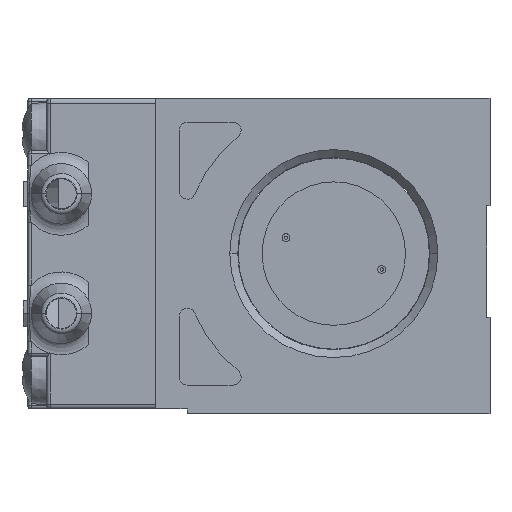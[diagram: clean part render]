
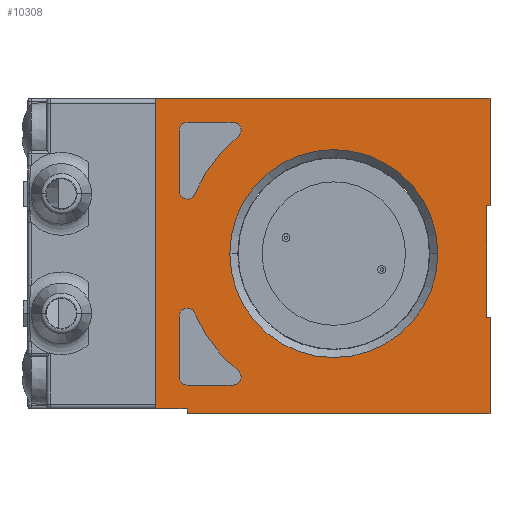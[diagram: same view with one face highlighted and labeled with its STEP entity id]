
A CAD part, left-side view. The second image highlights one B-rep face of the part: STEP entity #10308.
In plain terms, the highlighted planar face has unit normal (-1, 0, 0).
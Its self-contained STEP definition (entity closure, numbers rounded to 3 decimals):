
#3442=DIRECTION('',(0.,0.,1.));
#3443=VECTOR('',#3442,19.5);
#3444=CARTESIAN_POINT('',(-15.75,10.5,-9.75));
#3445=LINE('',#3444,#3443);
#3446=DIRECTION('',(0.,-1.,0.));
#3447=VECTOR('',#3446,21.);
#3448=CARTESIAN_POINT('',(-15.75,10.5,9.75));
#3449=LINE('',#3448,#3447);
#3450=DIRECTION('',(0.,0.,-1.));
#3451=VECTOR('',#3450,6.75);
#3452=CARTESIAN_POINT('',(-15.75,-10.5,9.75));
#3453=LINE('',#3452,#3451);
#3454=DIRECTION('',(0.,1.,0.));
#3455=VECTOR('',#3454,0.2);
#3456=CARTESIAN_POINT('',(-15.75,-10.5,3.));
#3457=LINE('',#3456,#3455);
#3458=DIRECTION('',(0.,0.,-1.));
#3459=VECTOR('',#3458,7.);
#3460=CARTESIAN_POINT('',(-15.75,-10.3,3.));
#3461=LINE('',#3460,#3459);
#3462=DIRECTION('',(0.,-1.,0.));
#3463=VECTOR('',#3462,0.2);
#3464=CARTESIAN_POINT('',(-15.75,-10.3,-4.));
#3465=LINE('',#3464,#3463);
#3466=DIRECTION('',(0.,0.,-1.));
#3467=VECTOR('',#3466,6.05);
#3468=CARTESIAN_POINT('',(-15.75,-10.5,-4.));
#3469=LINE('',#3468,#3467);
#3470=DIRECTION('',(0.,1.,0.));
#3471=VECTOR('',#3470,19.);
#3472=CARTESIAN_POINT('',(-15.75,-10.5,-10.05));
#3473=LINE('',#3472,#3471);
#3474=DIRECTION('',(0.,0.,1.));
#3475=VECTOR('',#3474,0.3);
#3476=CARTESIAN_POINT('',(-15.75,8.5,-10.05));
#3477=LINE('',#3476,#3475);
#3478=DIRECTION('',(0.,1.,0.));
#3479=VECTOR('',#3478,2.);
#3480=CARTESIAN_POINT('',(-15.75,8.5,-9.75));
#3481=LINE('',#3480,#3479);
#3482=CARTESIAN_POINT('',(-15.75,5.62,-7.75));
#3483=DIRECTION('',(-1.,0.,0.));
#3484=DIRECTION('',(0.,0.,-1.));
#3485=AXIS2_PLACEMENT_3D('',#3482,#3483,#3484);
#3487=CARTESIAN_POINT('',(-15.75,-0.7,0.));
#3488=DIRECTION('',(1.,0.,0.));
#3489=DIRECTION('',(0.,0.632,-0.775));
#3490=AXIS2_PLACEMENT_3D('',#3487,#3488,#3489);
#3492=CARTESIAN_POINT('',(-15.75,8.5,-3.919));
#3493=DIRECTION('',(-1.,0.,0.));
#3494=DIRECTION('',(0.,-0.92,0.392));
#3495=AXIS2_PLACEMENT_3D('',#3492,#3493,#3494);
#3497=CARTESIAN_POINT('',(-15.75,8.5,-3.919));
#3498=DIRECTION('',(-1.,0.,0.));
#3499=DIRECTION('',(0.,0.,1.));
#3500=AXIS2_PLACEMENT_3D('',#3497,#3498,#3499);
#3502=CARTESIAN_POINT('',(-15.75,8.5,-7.75));
#3503=DIRECTION('',(-1.,0.,0.));
#3504=DIRECTION('',(0.,1.,0.));
#3505=AXIS2_PLACEMENT_3D('',#3502,#3503,#3504);
#3507=CARTESIAN_POINT('',(-15.75,-0.7,0.));
#3508=DIRECTION('',(1.,0.,0.));
#3509=DIRECTION('',(0.,0.92,0.392));
#3510=AXIS2_PLACEMENT_3D('',#3507,#3508,#3509);
#3512=CARTESIAN_POINT('',(-15.75,5.62,7.75));
#3513=DIRECTION('',(-1.,0.,0.));
#3514=DIRECTION('',(0.,-0.632,-0.775));
#3515=AXIS2_PLACEMENT_3D('',#3512,#3513,#3514);
#3517=CARTESIAN_POINT('',(-15.75,8.5,7.75));
#3518=DIRECTION('',(-1.,0.,0.));
#3519=DIRECTION('',(0.,0.,1.));
#3520=AXIS2_PLACEMENT_3D('',#3517,#3518,#3519);
#3522=CARTESIAN_POINT('',(-15.75,8.5,3.919));
#3523=DIRECTION('',(-1.,0.,0.));
#3524=DIRECTION('',(0.,1.,0.));
#3525=AXIS2_PLACEMENT_3D('',#3522,#3523,#3524);
#3527=CARTESIAN_POINT('',(-15.75,8.5,3.919));
#3528=DIRECTION('',(-1.,0.,0.));
#3529=DIRECTION('',(0.,0.,-1.));
#3530=AXIS2_PLACEMENT_3D('',#3527,#3528,#3529);
#3532=CARTESIAN_POINT('',(-15.75,-0.7,0.));
#3533=DIRECTION('',(-1.,0.,0.));
#3534=DIRECTION('',(0.,-1.,0.));
#3535=AXIS2_PLACEMENT_3D('',#3532,#3533,#3534);
#3537=CARTESIAN_POINT('',(-15.75,-0.7,0.));
#3538=DIRECTION('',(-1.,0.,0.));
#3539=DIRECTION('',(0.,1.,0.));
#3540=AXIS2_PLACEMENT_3D('',#3537,#3538,#3539);
#4188=DIRECTION('',(0.,1.,0.));
#4189=VECTOR('',#4188,2.88);
#4190=CARTESIAN_POINT('',(-15.75,5.62,-8.25));
#4191=LINE('',#4190,#4189);
#4200=DIRECTION('',(0.,0.,1.));
#4201=VECTOR('',#4200,3.831);
#4202=CARTESIAN_POINT('',(-15.75,9.,-7.75));
#4203=LINE('',#4202,#4201);
#4265=DIRECTION('',(0.,0.,1.));
#4266=VECTOR('',#4265,3.831);
#4267=CARTESIAN_POINT('',(-15.75,9.,3.919));
#4268=LINE('',#4267,#4266);
#4277=DIRECTION('',(0.,-1.,0.));
#4278=VECTOR('',#4277,2.88);
#4279=CARTESIAN_POINT('',(-15.75,8.5,8.25));
#4280=LINE('',#4279,#4278);
#4723=CARTESIAN_POINT('',(-15.75,-10.5,9.75));
#4724=VERTEX_POINT('',#4723);
#4725=CARTESIAN_POINT('',(-15.75,10.5,9.75));
#4726=VERTEX_POINT('',#4725);
#4767=CARTESIAN_POINT('',(-15.75,10.5,-9.75));
#4768=VERTEX_POINT('',#4767);
#4769=CARTESIAN_POINT('',(-15.75,8.5,-9.75));
#4770=VERTEX_POINT('',#4769);
#5147=CARTESIAN_POINT('',(-15.75,8.5,-10.05));
#5148=VERTEX_POINT('',#5147);
#5149=CARTESIAN_POINT('',(-15.75,-10.5,-10.05));
#5150=VERTEX_POINT('',#5149);
#5199=CARTESIAN_POINT('',(-15.75,-10.5,-4.));
#5200=VERTEX_POINT('',#5199);
#5217=CARTESIAN_POINT('',(-15.75,-10.5,3.));
#5218=VERTEX_POINT('',#5217);
#5219=CARTESIAN_POINT('',(-15.75,-10.3,3.));
#5220=VERTEX_POINT('',#5219);
#5221=CARTESIAN_POINT('',(-15.75,-10.3,-4.));
#5222=VERTEX_POINT('',#5221);
#5223=CARTESIAN_POINT('',(-15.75,5.62,-8.25));
#5224=CARTESIAN_POINT('',(-15.75,8.5,-8.25));
#5225=VERTEX_POINT('',#5223);
#5226=VERTEX_POINT('',#5224);
#5227=CARTESIAN_POINT('',(-15.75,5.304,-7.363));
#5228=VERTEX_POINT('',#5227);
#5229=CARTESIAN_POINT('',(-15.75,8.04,-3.723));
#5230=VERTEX_POINT('',#5229);
#5231=CARTESIAN_POINT('',(-15.75,8.5,-3.419));
#5232=VERTEX_POINT('',#5231);
#5233=CARTESIAN_POINT('',(-15.75,9.,-3.919));
#5234=VERTEX_POINT('',#5233);
#5235=CARTESIAN_POINT('',(-15.75,9.,-7.75));
#5236=VERTEX_POINT('',#5235);
#5237=CARTESIAN_POINT('',(-15.75,8.04,3.723));
#5238=CARTESIAN_POINT('',(-15.75,5.304,7.363));
#5239=VERTEX_POINT('',#5237);
#5240=VERTEX_POINT('',#5238);
#5241=CARTESIAN_POINT('',(-15.75,5.62,8.25));
#5242=VERTEX_POINT('',#5241);
#5243=CARTESIAN_POINT('',(-15.75,8.5,8.25));
#5244=VERTEX_POINT('',#5243);
#5245=CARTESIAN_POINT('',(-15.75,9.,7.75));
#5246=VERTEX_POINT('',#5245);
#5247=CARTESIAN_POINT('',(-15.75,9.,3.919));
#5248=VERTEX_POINT('',#5247);
#5249=CARTESIAN_POINT('',(-15.75,8.5,3.419));
#5250=VERTEX_POINT('',#5249);
#5251=CARTESIAN_POINT('',(-15.75,-7.225,0.));
#5252=CARTESIAN_POINT('',(-15.75,5.825,0.));
#5253=VERTEX_POINT('',#5251);
#5254=VERTEX_POINT('',#5252);
#10246=CARTESIAN_POINT('',(-15.75,11.5,-10.05));
#10247=DIRECTION('',(-1.,0.,0.));
#10248=DIRECTION('',(0.,0.,1.));
#10249=AXIS2_PLACEMENT_3D('',#10246,#10247,#10248);
#10250=PLANE('',#10249);
#10251=ORIENTED_EDGE('',*,*,#10230,.T.);
#10252=ORIENTED_EDGE('',*,*,#6467,.T.);
#10254=ORIENTED_EDGE('',*,*,#10253,.T.);
#10256=ORIENTED_EDGE('',*,*,#10255,.T.);
#10258=ORIENTED_EDGE('',*,*,#10257,.T.);
#10260=ORIENTED_EDGE('',*,*,#10259,.T.);
#10262=ORIENTED_EDGE('',*,*,#10261,.T.);
#10264=ORIENTED_EDGE('',*,*,#10263,.T.);
#10266=ORIENTED_EDGE('',*,*,#10265,.T.);
#10267=ORIENTED_EDGE('',*,*,#6353,.T.);
#10268=EDGE_LOOP('',(#10251,#10252,#10254,#10256,#10258,#10260,#10262,#10264,
#10266,#10267));
#10269=FACE_OUTER_BOUND('',#10268,.F.);
#10271=ORIENTED_EDGE('',*,*,#10270,.F.);
#10273=ORIENTED_EDGE('',*,*,#10272,.T.);
#10275=ORIENTED_EDGE('',*,*,#10274,.T.);
#10277=ORIENTED_EDGE('',*,*,#10276,.T.);
#10279=ORIENTED_EDGE('',*,*,#10278,.T.);
#10281=ORIENTED_EDGE('',*,*,#10280,.F.);
#10283=ORIENTED_EDGE('',*,*,#10282,.T.);
#10284=EDGE_LOOP('',(#10271,#10273,#10275,#10277,#10279,#10281,#10283));
#10285=FACE_BOUND('',#10284,.F.);
#10287=ORIENTED_EDGE('',*,*,#10286,.T.);
#10289=ORIENTED_EDGE('',*,*,#10288,.T.);
#10291=ORIENTED_EDGE('',*,*,#10290,.F.);
#10293=ORIENTED_EDGE('',*,*,#10292,.T.);
#10295=ORIENTED_EDGE('',*,*,#10294,.F.);
#10297=ORIENTED_EDGE('',*,*,#10296,.T.);
#10299=ORIENTED_EDGE('',*,*,#10298,.T.);
#10300=EDGE_LOOP('',(#10287,#10289,#10291,#10293,#10295,#10297,#10299));
#10301=FACE_BOUND('',#10300,.F.);
#10303=ORIENTED_EDGE('',*,*,#10302,.T.);
#10305=ORIENTED_EDGE('',*,*,#10304,.T.);
#10306=EDGE_LOOP('',(#10303,#10305));
#10307=FACE_BOUND('',#10306,.F.);
#3486=CIRCLE('',#3485,0.5);
#3491=CIRCLE('',#3490,9.5);
#3496=CIRCLE('',#3495,0.5);
#3501=CIRCLE('',#3500,0.5);
#3506=CIRCLE('',#3505,0.5);
#3511=CIRCLE('',#3510,9.5);
#3516=CIRCLE('',#3515,0.5);
#3521=CIRCLE('',#3520,0.5);
#3526=CIRCLE('',#3525,0.5);
#3531=CIRCLE('',#3530,0.5);
#3536=CIRCLE('',#3535,6.525);
#3541=CIRCLE('',#3540,6.525);
#6353=EDGE_CURVE('',#4770,#4768,#3481,.T.);
#6467=EDGE_CURVE('',#4726,#4724,#3449,.T.);
#10230=EDGE_CURVE('',#4768,#4726,#3445,.T.);
#10253=EDGE_CURVE('',#4724,#5218,#3453,.T.);
#10255=EDGE_CURVE('',#5218,#5220,#3457,.T.);
#10257=EDGE_CURVE('',#5220,#5222,#3461,.T.);
#10259=EDGE_CURVE('',#5222,#5200,#3465,.T.);
#10261=EDGE_CURVE('',#5200,#5150,#3469,.T.);
#10263=EDGE_CURVE('',#5150,#5148,#3473,.T.);
#10265=EDGE_CURVE('',#5148,#4770,#3477,.T.);
#10270=EDGE_CURVE('',#5225,#5226,#4191,.T.);
#10272=EDGE_CURVE('',#5225,#5228,#3486,.T.);
#10274=EDGE_CURVE('',#5228,#5230,#3491,.T.);
#10276=EDGE_CURVE('',#5230,#5232,#3496,.T.);
#10278=EDGE_CURVE('',#5232,#5234,#3501,.T.);
#10280=EDGE_CURVE('',#5236,#5234,#4203,.T.);
#10282=EDGE_CURVE('',#5236,#5226,#3506,.T.);
#10286=EDGE_CURVE('',#5239,#5240,#3511,.T.);
#10288=EDGE_CURVE('',#5240,#5242,#3516,.T.);
#10290=EDGE_CURVE('',#5244,#5242,#4280,.T.);
#10292=EDGE_CURVE('',#5244,#5246,#3521,.T.);
#10294=EDGE_CURVE('',#5248,#5246,#4268,.T.);
#10296=EDGE_CURVE('',#5248,#5250,#3526,.T.);
#10298=EDGE_CURVE('',#5250,#5239,#3531,.T.);
#10302=EDGE_CURVE('',#5253,#5254,#3536,.T.);
#10304=EDGE_CURVE('',#5254,#5253,#3541,.T.);
#10308=ADVANCED_FACE('',(#10269,#10285,#10301,#10307),#10250,.T.);
